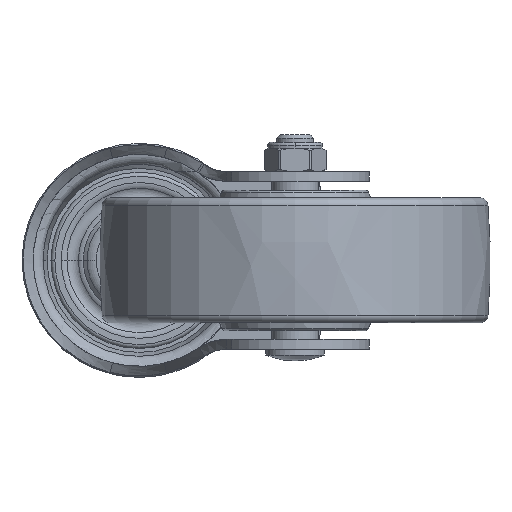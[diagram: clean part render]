
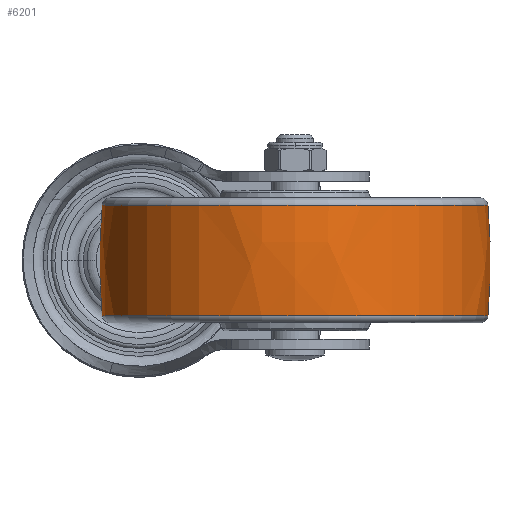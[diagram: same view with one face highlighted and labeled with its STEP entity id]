
A CAD part, front view. The second image highlights one B-rep face of the part: STEP entity #6201.
In plain terms, the highlighted free-form (B-spline) face has degree [3, 3] with [7, 4] control points.
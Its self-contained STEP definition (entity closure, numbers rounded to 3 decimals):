
#5613=CARTESIAN_POINT('',(0.009,-120.,
0.));
#5614=DIRECTION('',(0.,0.,1.));
#5615=DIRECTION('',(0.083,0.997,0.));
#5616=AXIS2_PLACEMENT_3D('',#5613,#5614,#5615);
#5618=CARTESIAN_POINT('',(0.009,120.,
0.));
#5619=DIRECTION('',(0.,0.,-1.));
#5620=DIRECTION('',(0.083,-0.997,0.));
#5621=AXIS2_PLACEMENT_3D('',#5618,#5619,#5620);
#5623=CARTESIAN_POINT('',(14.167,0.,0.));
#5624=DIRECTION('',(-1.,0.,0.));
#5625=DIRECTION('',(0.,1.,0.));
#5626=AXIS2_PLACEMENT_3D('',#5623,#5624,#5625);
#5648=CARTESIAN_POINT('',(-14.167,0.,0.));
#5649=DIRECTION('',(-1.,0.,0.));
#5650=DIRECTION('',(0.,1.,0.));
#5651=AXIS2_PLACEMENT_3D('',#5648,#5649,#5650);
#5792=CARTESIAN_POINT('',(14.167,49.41,0.));
#5794=VERTEX_POINT('',#5792);
#5795=CARTESIAN_POINT('',(-14.167,49.408,0.));
#5796=VERTEX_POINT('',#5795);
#5832=CARTESIAN_POINT('',(14.167,-49.41,
0.));
#5834=VERTEX_POINT('',#5832);
#5835=CARTESIAN_POINT('',(-14.167,-49.408,
0.));
#5836=VERTEX_POINT('',#5835);
#6163=CARTESIAN_POINT('',(-14.732,-49.263,
3.099));
#6164=CARTESIAN_POINT('',(-4.923,-50.115,
3.153));
#6165=CARTESIAN_POINT('',(4.923,-50.115,3.153));
#6166=CARTESIAN_POINT('',(14.732,-49.264,3.099));
#6167=CARTESIAN_POINT('',(-14.732,-51.17,
-27.217));
#6168=CARTESIAN_POINT('',(-4.923,-52.055,
-27.688));
#6169=CARTESIAN_POINT('',(4.923,-52.056,
-27.688));
#6170=CARTESIAN_POINT('',(14.732,-51.172,
-27.218));
#6171=CARTESIAN_POINT('',(-14.732,-30.376,
-49.36));
#6172=CARTESIAN_POINT('',(-4.923,-30.902,
-50.214));
#6173=CARTESIAN_POINT('',(4.923,-30.902,
-50.214));
#6174=CARTESIAN_POINT('',(14.732,-30.377,
-49.362));
#6175=CARTESIAN_POINT('',(-14.732,0.,
-49.36));
#6176=CARTESIAN_POINT('',(-4.923,0.,
-50.214));
#6177=CARTESIAN_POINT('',(4.923,0.,
-50.214));
#6178=CARTESIAN_POINT('',(14.732,0.,
-49.362));
#6179=CARTESIAN_POINT('',(-14.732,30.376,
-49.36));
#6180=CARTESIAN_POINT('',(-4.923,30.902,
-50.214));
#6181=CARTESIAN_POINT('',(4.923,30.902,-50.214));
#6182=CARTESIAN_POINT('',(14.732,30.377,-49.362));
#6183=CARTESIAN_POINT('',(-14.732,51.17,
-27.217));
#6184=CARTESIAN_POINT('',(-4.923,52.055,
-27.688));
#6185=CARTESIAN_POINT('',(4.923,52.056,-27.688));
#6186=CARTESIAN_POINT('',(14.732,51.172,-27.218));
#6187=CARTESIAN_POINT('',(-14.732,49.263,3.099));
#6188=CARTESIAN_POINT('',(-4.923,50.115,3.153));
#6189=CARTESIAN_POINT('',(4.923,50.115,3.153));
#6190=CARTESIAN_POINT('',(14.732,49.264,3.099));
#6191=(BOUNDED_SURFACE()B_SPLINE_SURFACE(3,3,((#6163,#6164,#6165,#6166),(#6167,
#6168,#6169,#6170),(#6171,#6172,#6173,#6174),(#6175,#6176,#6177,#6178),(#6179,
#6180,#6181,#6182),(#6183,#6184,#6185,#6186),(#6187,#6188,#6189,#6190)),
.UNSPECIFIED.,.F.,.F.,.F.)B_SPLINE_SURFACE_WITH_KNOTS((4,3,4),(4,4),(0.,1.,
2.),(0.,1.),.UNSPECIFIED.)GEOMETRIC_REPRESENTATION_ITEM()RATIONAL_B_SPLINE_SURFACE(((1.19,1.187,1.187,1.19),(
0.939,0.937,0.937,0.939),(
0.939,0.937,0.937,0.939),(
1.19,1.187,1.187,1.19),(
0.939,0.937,0.937,0.939),(
0.939,0.937,0.937,0.939),(
1.19,1.187,1.187,1.19)))REPRESENTATION_ITEM('')SURFACE());
#6193=ORIENTED_EDGE('',*,*,#6192,.T.);
#6195=ORIENTED_EDGE('',*,*,#6194,.T.);
#6197=ORIENTED_EDGE('',*,*,#6196,.F.);
#6198=ORIENTED_EDGE('',*,*,#6156,.F.);
#6199=EDGE_LOOP('',(#6193,#6195,#6197,#6198));
#6200=FACE_OUTER_BOUND('',#6199,.F.);
#5617=CIRCLE('',#5616,170.);
#5622=CIRCLE('',#5621,170.);
#5627=CIRCLE('',#5626,49.41);
#5652=CIRCLE('',#5651,49.408);
#6156=EDGE_CURVE('',#5794,#5834,#5627,.T.);
#6192=EDGE_CURVE('',#5794,#5796,#5617,.T.);
#6194=EDGE_CURVE('',#5796,#5836,#5652,.T.);
#6196=EDGE_CURVE('',#5834,#5836,#5622,.T.);
#6201=ADVANCED_FACE('',(#6200),#6191,.T.);
